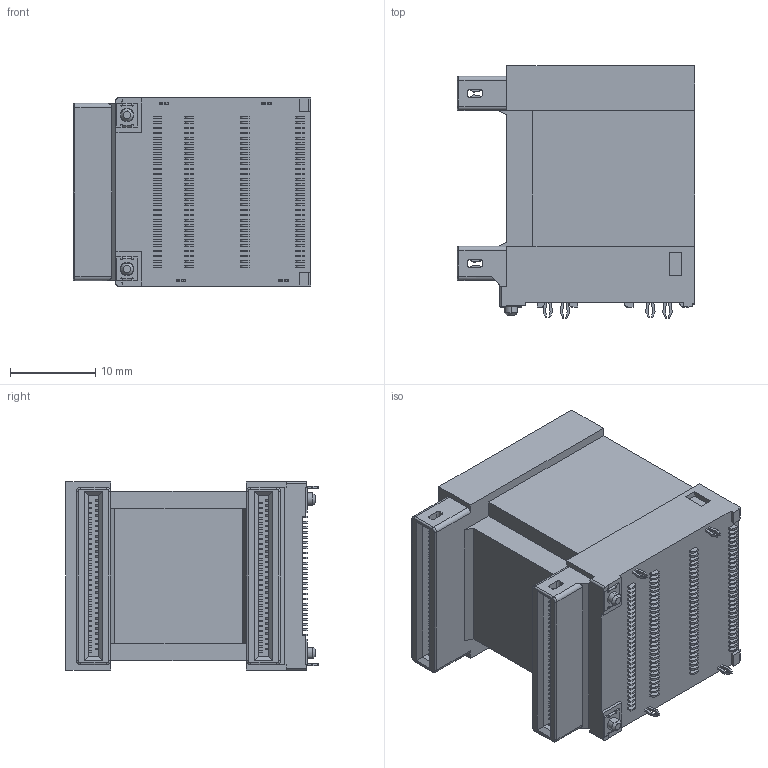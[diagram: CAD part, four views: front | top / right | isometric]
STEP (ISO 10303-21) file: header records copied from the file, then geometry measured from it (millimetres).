
FILE_DESCRIPTION((''),'2;1');
FILE_NAME('HOUSING','2026-06-22T10:38:55',('39002408'),(''),'CREO PARAMETRIC BY PTC INC, 2019471','CREO PARAMETRIC BY PTC INC, 2019471','');
FILE_SCHEMA(('CONFIG_CONTROL_DESIGN'));
Products named in the file (1): HOUSING
Bounding box: 27.8 x 29.51 x 22 mm (x, y, z)
Volume: 12874.4 mm3; surface area: 5851.5 mm2
Topology: 1 solids, 13 shells, 4084 faces, 11365 edges, 7564 vertices
Faces by surface type: plane 2344, cylinder 1728, torus 8, cone 4
Entity records: 131899 total; most frequent: CARTESIAN_POINT 23039, DIRECTION 22993, ORIENTED_EDGE 22730, EDGE_CURVE 11365, VECTOR 7893, LINE 7893, VERTEX_POINT 7564, AXIS2_PLACEMENT_3D 7550
